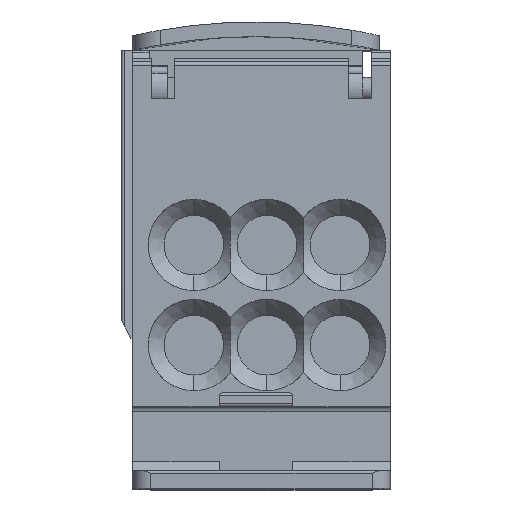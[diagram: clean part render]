
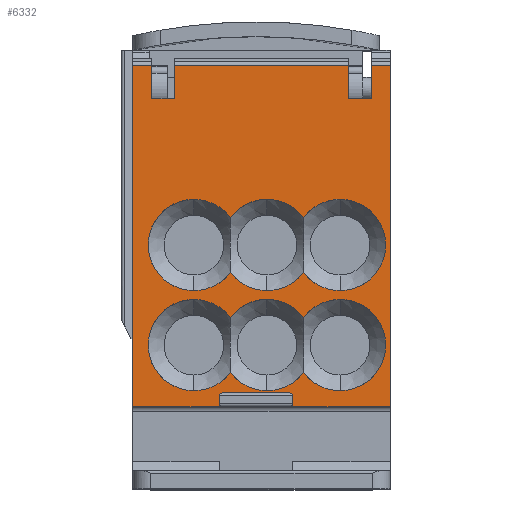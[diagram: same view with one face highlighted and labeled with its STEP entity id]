
A CAD part, top view. The second image highlights one B-rep face of the part: STEP entity #6332.
In plain terms, the highlighted planar face has unit normal (0, 0, 1).
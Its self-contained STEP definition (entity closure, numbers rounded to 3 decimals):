
#101=CIRCLE('',#6637,5.);
#102=CIRCLE('',#6639,5.);
#105=CIRCLE('',#6642,5.);
#107=CIRCLE('',#6645,5.);
#111=CIRCLE('',#6653,5.);
#122=CIRCLE('',#6671,5.);
#125=CIRCLE('',#6674,5.);
#127=CIRCLE('',#6677,5.);
#131=CIRCLE('',#6685,5.);
#132=CIRCLE('',#6687,5.);
#166=CIRCLE('',#6741,0.3);
#167=CIRCLE('',#6745,0.3);
#168=CIRCLE('',#6748,0.3);
#169=CIRCLE('',#6753,0.3);
#1355=ORIENTED_EDGE('',*,*,#2676,.F.);
#1356=ORIENTED_EDGE('',*,*,#2670,.T.);
#1357=ORIENTED_EDGE('',*,*,#2674,.T.);
#1358=ORIENTED_EDGE('',*,*,#2669,.F.);
#1359=ORIENTED_EDGE('',*,*,#2684,.T.);
#1360=ORIENTED_EDGE('',*,*,#2715,.T.);
#1361=ORIENTED_EDGE('',*,*,#2707,.F.);
#1362=ORIENTED_EDGE('',*,*,#2700,.T.);
#1363=ORIENTED_EDGE('',*,*,#2705,.T.);
#1364=ORIENTED_EDGE('',*,*,#2717,.F.);
#1365=ORIENTED_EDGE('',*,*,#2990,.F.);
#1366=ORIENTED_EDGE('',*,*,#2721,.T.);
#1367=ORIENTED_EDGE('',*,*,#2781,.T.);
#1368=ORIENTED_EDGE('',*,*,#2783,.F.);
#1369=ORIENTED_EDGE('',*,*,#2991,.T.);
#1370=ORIENTED_EDGE('',*,*,#2972,.T.);
#1371=ORIENTED_EDGE('',*,*,#2807,.T.);
#1372=ORIENTED_EDGE('',*,*,#2793,.F.);
#1373=ORIENTED_EDGE('',*,*,#2796,.T.);
#1374=ORIENTED_EDGE('',*,*,#2789,.T.);
#1375=ORIENTED_EDGE('',*,*,#2801,.T.);
#1376=ORIENTED_EDGE('',*,*,#2802,.F.);
#1377=ORIENTED_EDGE('',*,*,#2785,.T.);
#1378=ORIENTED_EDGE('',*,*,#2971,.T.);
#1379=ORIENTED_EDGE('',*,*,#2992,.T.);
#1380=ORIENTED_EDGE('',*,*,#2984,.F.);
#1381=ORIENTED_EDGE('',*,*,#2993,.F.);
#1382=ORIENTED_EDGE('',*,*,#2988,.F.);
#1383=ORIENTED_EDGE('',*,*,#2994,.T.);
#1384=ORIENTED_EDGE('',*,*,#2995,.F.);
#2669=EDGE_CURVE('',#3588,#3587,#101,.T.);
#2670=EDGE_CURVE('',#3589,#3590,#102,.T.);
#2674=EDGE_CURVE('',#3590,#3587,#105,.T.);
#2676=EDGE_CURVE('',#3589,#3593,#107,.T.);
#2684=EDGE_CURVE('',#3588,#3593,#111,.T.);
#2700=EDGE_CURVE('',#3608,#3609,#122,.T.);
#2705=EDGE_CURVE('',#3609,#3612,#125,.T.);
#2707=EDGE_CURVE('',#3608,#3613,#127,.T.);
#2715=EDGE_CURVE('',#3616,#3613,#131,.T.);
#2717=EDGE_CURVE('',#3616,#3612,#132,.T.);
#2721=EDGE_CURVE('',#3618,#3620,#4220,.T.);
#2781=EDGE_CURVE('',#3620,#3663,#4248,.T.);
#2783=EDGE_CURVE('',#3664,#3663,#4249,.T.);
#2785=EDGE_CURVE('',#3667,#3666,#166,.T.);
#2789=EDGE_CURVE('',#3671,#3669,#4253,.T.);
#2793=EDGE_CURVE('',#3673,#3675,#4257,.T.);
#2796=EDGE_CURVE('',#3673,#3671,#167,.T.);
#2801=EDGE_CURVE('',#3669,#3678,#168,.T.);
#2802=EDGE_CURVE('',#3667,#3678,#4262,.T.);
#2807=EDGE_CURVE('',#3680,#3675,#169,.T.);
#2971=EDGE_CURVE('',#3666,#3791,#4381,.T.);
#2972=EDGE_CURVE('',#3792,#3680,#4382,.T.);
#2984=EDGE_CURVE('',#3800,#3801,#4388,.T.);
#2988=EDGE_CURVE('',#3804,#3805,#4391,.T.);
#2990=EDGE_CURVE('',#3618,#3806,#4393,.T.);
#2991=EDGE_CURVE('',#3664,#3792,#4394,.T.);
#2992=EDGE_CURVE('',#3791,#3801,#4395,.T.);
#2993=EDGE_CURVE('',#3805,#3800,#4396,.T.);
#2994=EDGE_CURVE('',#3804,#3807,#4397,.T.);
#2995=EDGE_CURVE('',#3806,#3807,#4398,.T.);
#3587=VERTEX_POINT('',#9579);
#3588=VERTEX_POINT('',#9581);
#3589=VERTEX_POINT('',#9585);
#3590=VERTEX_POINT('',#9586);
#3593=VERTEX_POINT('',#9596);
#3608=VERTEX_POINT('',#9692);
#3609=VERTEX_POINT('',#9693);
#3612=VERTEX_POINT('',#9700);
#3613=VERTEX_POINT('',#9705);
#3616=VERTEX_POINT('',#9743);
#3618=VERTEX_POINT('',#9750);
#3620=VERTEX_POINT('',#9754);
#3663=VERTEX_POINT('',#9874);
#3664=VERTEX_POINT('',#9878);
#3666=VERTEX_POINT('',#9883);
#3667=VERTEX_POINT('',#9885);
#3669=VERTEX_POINT('',#9896);
#3671=VERTEX_POINT('',#9899);
#3673=VERTEX_POINT('',#9905);
#3675=VERTEX_POINT('',#9908);
#3678=VERTEX_POINT('',#9931);
#3680=VERTEX_POINT('',#9949);
#3791=VERTEX_POINT('',#10291);
#3792=VERTEX_POINT('',#10293);
#3800=VERTEX_POINT('',#10315);
#3801=VERTEX_POINT('',#10317);
#3804=VERTEX_POINT('',#10324);
#3805=VERTEX_POINT('',#10326);
#3806=VERTEX_POINT('',#10330);
#3807=VERTEX_POINT('',#10335);
#4220=LINE('',#9755,#4826);
#4248=LINE('',#9875,#4854);
#4249=LINE('',#9879,#4855);
#4253=LINE('',#9898,#4859);
#4257=LINE('',#9907,#4863);
#4262=LINE('',#9934,#4868);
#4381=LINE('',#10290,#4987);
#4382=LINE('',#10292,#4988);
#4388=LINE('',#10316,#4994);
#4391=LINE('',#10325,#4997);
#4393=LINE('',#10329,#4999);
#4394=LINE('',#10331,#5000);
#4395=LINE('',#10332,#5001);
#4396=LINE('',#10333,#5002);
#4397=LINE('',#10334,#5003);
#4398=LINE('',#10336,#5004);
#4826=VECTOR('',#7665,1000.);
#4854=VECTOR('',#7791,1000.);
#4855=VECTOR('',#7796,1000.);
#4859=VECTOR('',#7806,1000.);
#4863=VECTOR('',#7812,1000.);
#4868=VECTOR('',#7829,1000.);
#4987=VECTOR('',#8154,1000.);
#4988=VECTOR('',#8155,1000.);
#4994=VECTOR('',#8179,1000.);
#4997=VECTOR('',#8186,1000.);
#4999=VECTOR('',#8190,1000.);
#5000=VECTOR('',#8191,1000.);
#5001=VECTOR('',#8192,1000.);
#5002=VECTOR('',#8193,1000.);
#5003=VECTOR('',#8194,1000.);
#5004=VECTOR('',#8195,1000.);
#5471=EDGE_LOOP('',(#1355,#1356,#1357,#1358,#1359));
#5472=EDGE_LOOP('',(#1360,#1361,#1362,#1363,#1364));
#5473=EDGE_LOOP('',(#1365,#1366,#1367,#1368,#1369,#1370,#1371,#1372,#1373,
#1374,#1375,#1376,#1377,#1378,#1379,#1380,#1381,#1382,#1383,#1384));
#5818=FACE_BOUND('',#5471,.T.);
#5819=FACE_BOUND('',#5472,.T.);
#5820=FACE_BOUND('',#5473,.T.);
#6070=PLANE('',#6864);
#6332=ADVANCED_FACE('',(#5818,#5819,#5820),#6070,.F.);
#6637=AXIS2_PLACEMENT_3D('',#9582,#7544,#7545);
#6639=AXIS2_PLACEMENT_3D('',#9584,#7548,#7549);
#6642=AXIS2_PLACEMENT_3D('',#9592,#7555,#7556);
#6645=AXIS2_PLACEMENT_3D('',#9595,#7561,#7562);
#6653=AXIS2_PLACEMENT_3D('',#9633,#7580,#7581);
#6671=AXIS2_PLACEMENT_3D('',#9691,#7620,#7621);
#6674=AXIS2_PLACEMENT_3D('',#9701,#7628,#7629);
#6677=AXIS2_PLACEMENT_3D('',#9704,#7634,#7635);
#6685=AXIS2_PLACEMENT_3D('',#9742,#7653,#7654);
#6687=AXIS2_PLACEMENT_3D('',#9746,#7658,#7659);
#6741=AXIS2_PLACEMENT_3D('',#9884,#7800,#7801);
#6745=AXIS2_PLACEMENT_3D('',#9913,#7817,#7818);
#6748=AXIS2_PLACEMENT_3D('',#9932,#7825,#7826);
#6753=AXIS2_PLACEMENT_3D('',#9948,#7839,#7840);
#6864=AXIS2_PLACEMENT_3D('',#10328,#8188,#8189);
#7544=DIRECTION('',(0.,0.,1.));
#7545=DIRECTION('',(-0.8,-0.6,0.));
#7548=DIRECTION('',(0.,0.,-1.));
#7549=DIRECTION('',(-0.8,0.6,0.));
#7555=DIRECTION('',(0.,0.,-1.));
#7556=DIRECTION('',(0.,1.,0.));
#7561=DIRECTION('',(0.,0.,1.));
#7562=DIRECTION('',(0.8,0.6,0.));
#7580=DIRECTION('',(0.,0.,-1.));
#7581=DIRECTION('',(0.8,-0.6,0.));
#7620=DIRECTION('',(0.,0.,-1.));
#7621=DIRECTION('',(-0.8,0.6,0.));
#7628=DIRECTION('',(0.,0.,-1.));
#7629=DIRECTION('',(0.,1.,0.));
#7634=DIRECTION('',(0.,0.,1.));
#7635=DIRECTION('',(0.8,0.6,0.));
#7653=DIRECTION('',(0.,0.,-1.));
#7654=DIRECTION('',(0.8,-0.6,0.));
#7658=DIRECTION('',(0.,0.,1.));
#7659=DIRECTION('',(-0.8,-0.6,0.));
#7665=DIRECTION('',(-1.,0.,0.));
#7791=DIRECTION('',(0.,1.,0.));
#7796=DIRECTION('',(1.,0.,0.));
#7800=DIRECTION('',(0.,0.,-1.));
#7801=DIRECTION('',(1.,0.,0.));
#7806=DIRECTION('',(1.,0.,0.));
#7812=DIRECTION('',(0.,-1.,0.));
#7817=DIRECTION('',(0.,0.,-1.));
#7818=DIRECTION('',(-1.,0.,0.));
#7825=DIRECTION('',(0.,0.,-1.));
#7826=DIRECTION('',(0.,1.,0.));
#7829=DIRECTION('',(0.,1.,0.));
#7839=DIRECTION('',(0.,0.,-1.));
#7840=DIRECTION('',(0.,-1.,0.));
#8154=DIRECTION('',(1.,0.,0.));
#8155=DIRECTION('',(1.,0.,0.));
#8179=DIRECTION('',(1.,0.,0.));
#8186=DIRECTION('',(1.,0.,0.));
#8188=DIRECTION('',(0.,0.,-1.));
#8189=DIRECTION('',(0.,1.,0.));
#8190=DIRECTION('',(0.,1.,0.));
#8191=DIRECTION('',(0.,-1.,0.));
#8192=DIRECTION('',(0.,1.,0.));
#8193=DIRECTION('',(0.,1.,0.));
#8194=DIRECTION('',(0.,1.,0.));
#8195=DIRECTION('',(1.,0.,0.));
#9579=CARTESIAN_POINT('',(4.6,29.7,0.));
#9581=CARTESIAN_POINT('',(4.6,23.7,0.));
#9582=CARTESIAN_POINT('',(8.6,26.7,0.));
#9584=CARTESIAN_POINT('',(0.6,26.7,0.));
#9585=CARTESIAN_POINT('',(-3.4,29.7,0.));
#9586=CARTESIAN_POINT('',(0.6,31.7,0.));
#9592=CARTESIAN_POINT('',(0.6,26.7,0.));
#9595=CARTESIAN_POINT('',(-7.4,26.7,0.));
#9596=CARTESIAN_POINT('',(-3.4,23.7,0.));
#9633=CARTESIAN_POINT('',(0.6,26.7,0.));
#9691=CARTESIAN_POINT('',(0.6,15.75,0.));
#9692=CARTESIAN_POINT('',(-3.4,18.75,0.));
#9693=CARTESIAN_POINT('',(0.6,20.75,0.));
#9700=CARTESIAN_POINT('',(4.6,18.75,0.));
#9701=CARTESIAN_POINT('',(0.6,15.75,0.));
#9704=CARTESIAN_POINT('',(-7.4,15.75,0.));
#9705=CARTESIAN_POINT('',(-3.4,12.75,0.));
#9742=CARTESIAN_POINT('',(0.6,15.75,0.));
#9743=CARTESIAN_POINT('',(4.6,12.75,0.));
#9746=CARTESIAN_POINT('',(8.6,15.75,0.));
#9750=CARTESIAN_POINT('',(-9.55,42.7,0.));
#9754=CARTESIAN_POINT('',(-12.,42.7,0.));
#9755=CARTESIAN_POINT('',(-9.55,42.7,0.));
#9874=CARTESIAN_POINT('',(-12.,46.36,0.));
#9875=CARTESIAN_POINT('',(-12.,42.7,0.));
#9878=CARTESIAN_POINT('',(-14.1,46.36,0.));
#9879=CARTESIAN_POINT('',(-14.1,46.36,0.));
#9883=CARTESIAN_POINT('',(3.1,9.,0.));
#9884=CARTESIAN_POINT('',(3.1,9.3,0.));
#9885=CARTESIAN_POINT('',(3.4,9.3,0.));
#9896=CARTESIAN_POINT('',(3.1,10.5,0.));
#9898=CARTESIAN_POINT('',(-4.3,10.5,0.));
#9899=CARTESIAN_POINT('',(-4.3,10.5,0.));
#9905=CARTESIAN_POINT('',(-4.6,10.2,0.));
#9907=CARTESIAN_POINT('',(-4.6,10.2,0.));
#9908=CARTESIAN_POINT('',(-4.6,9.3,0.));
#9913=CARTESIAN_POINT('',(-4.3,10.2,0.));
#9931=CARTESIAN_POINT('',(3.4,10.2,0.));
#9932=CARTESIAN_POINT('',(3.1,10.2,0.));
#9934=CARTESIAN_POINT('',(3.4,9.3,0.));
#9948=CARTESIAN_POINT('',(-4.3,9.3,0.));
#9949=CARTESIAN_POINT('',(-4.3,9.,0.));
#10290=CARTESIAN_POINT('',(3.1,9.,0.));
#10291=CARTESIAN_POINT('',(14.1,9.,0.));
#10292=CARTESIAN_POINT('',(-14.1,9.,0.));
#10293=CARTESIAN_POINT('',(-14.1,9.,0.));
#10315=CARTESIAN_POINT('',(12.,46.36,0.));
#10316=CARTESIAN_POINT('',(12.,46.36,0.));
#10317=CARTESIAN_POINT('',(14.1,46.36,0.));
#10324=CARTESIAN_POINT('',(9.55,42.7,0.));
#10325=CARTESIAN_POINT('',(9.55,42.7,0.));
#10326=CARTESIAN_POINT('',(12.,42.7,0.));
#10328=CARTESIAN_POINT('',(20.,46.36,0.));
#10329=CARTESIAN_POINT('',(-9.55,42.7,0.));
#10330=CARTESIAN_POINT('',(-9.55,46.36,0.));
#10331=CARTESIAN_POINT('',(-14.1,46.36,0.));
#10332=CARTESIAN_POINT('',(14.1,9.,0.));
#10333=CARTESIAN_POINT('',(12.,42.7,0.));
#10334=CARTESIAN_POINT('',(9.55,42.7,0.));
#10335=CARTESIAN_POINT('',(9.55,46.36,0.));
#10336=CARTESIAN_POINT('',(-9.55,46.36,0.));
